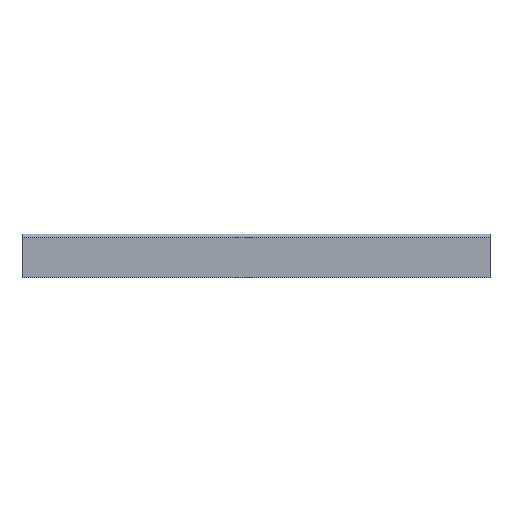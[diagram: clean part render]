
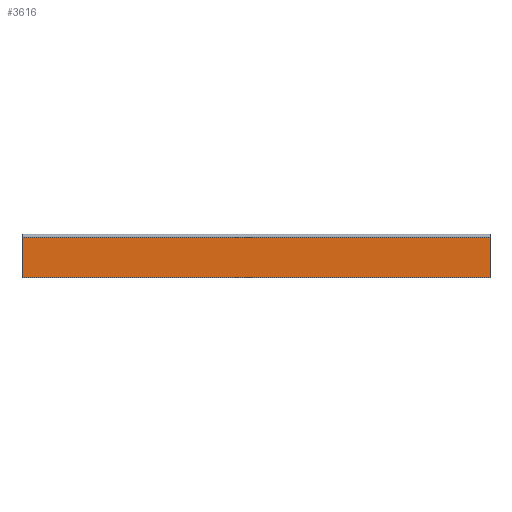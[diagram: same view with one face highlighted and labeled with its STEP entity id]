
A CAD part, left-side view. The second image highlights one B-rep face of the part: STEP entity #3616.
In plain terms, the highlighted planar face has unit normal (-1, 0, 0).
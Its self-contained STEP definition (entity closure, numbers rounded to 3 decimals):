
#32 = VERTEX_POINT ( 'NONE', #3790 ) ;
#33 = VERTEX_POINT ( 'NONE', #3791 ) ;
#590 = ORIENTED_EDGE ( 'NONE', *, *, #2183, .F. ) ;
#591 = ORIENTED_EDGE ( 'NONE', *, *, #3604, .F. ) ;
#592 = ORIENTED_EDGE ( 'NONE', *, *, #3223, .T. ) ;
#603 = ORIENTED_EDGE ( 'NONE', *, *, #3239, .F. ) ;
#674 = DIRECTION ( 'NONE',  ( 0., 0., 1. ) ) ;
#885 = CARTESIAN_POINT ( 'NONE',  ( -100., 0., 10. ) ) ;
#886 = DIRECTION ( 'NONE',  ( 0., 0., -1. ) ) ;
#1310 = CARTESIAN_POINT ( 'NONE',  ( -100., 429., 10. ) ) ;
#1318 = DIRECTION ( 'NONE',  ( 0., 0., 1. ) ) ;
#1342 = PLANE ( 'NONE',  #3540 ) ;
#1345 = CARTESIAN_POINT ( 'NONE',  ( -100., 454., 0. ) ) ;
#1351 = DIRECTION ( 'NONE',  ( -1., 0., 0. ) ) ;
#1515 = LINE ( 'NONE', #2420, #1517 ) ;
#1517 = VECTOR ( 'NONE', #4006, 1000. ) ;
#1534 = VECTOR ( 'NONE', #2222, 1000. ) ;
#1540 = LINE ( 'NONE', #2219, #1534 ) ;
#1700 = VECTOR ( 'NONE', #886, 1000. ) ;
#1701 = LINE ( 'NONE', #885, #1700 ) ;
#1880 = EDGE_LOOP ( 'NONE', ( #590, #603, #591, #592 ) ) ;
#2183 = EDGE_CURVE ( 'NONE', #3725, #3726, #1701, .T. ) ;
#2219 = CARTESIAN_POINT ( 'NONE',  ( -100., 454., 0. ) ) ;
#2222 = DIRECTION ( 'NONE',  ( 0., -1., 0. ) ) ;
#2297 = CARTESIAN_POINT ( 'NONE',  ( -100., 0., 37. ) ) ;
#2298 = CARTESIAN_POINT ( 'NONE',  ( -100., 0., 0. ) ) ;
#2420 = CARTESIAN_POINT ( 'NONE',  ( -100., 454., 37. ) ) ;
#2760 = FACE_OUTER_BOUND ( 'NONE', #1880, .T. ) ;
#2779 = VECTOR ( 'NONE', #1318, 1000. ) ;
#2782 = LINE ( 'NONE', #1310, #2779 ) ;
#3223 = EDGE_CURVE ( 'NONE', #32, #3726, #1540, .T. ) ;
#3239 = EDGE_CURVE ( 'NONE', #33, #3725, #1515, .T. ) ;
#3540 = AXIS2_PLACEMENT_3D ( 'NONE', #1345, #1351, #674 ) ;
#3604 = EDGE_CURVE ( 'NONE', #32, #33, #2782, .T. ) ;
#3616 = ADVANCED_FACE ( 'NONE', ( #2760 ), #1342, .T. ) ;
#3725 = VERTEX_POINT ( 'NONE', #2297 ) ;
#3726 = VERTEX_POINT ( 'NONE', #2298 ) ;
#3790 = CARTESIAN_POINT ( 'NONE',  ( -100., 429., 0. ) ) ;
#3791 = CARTESIAN_POINT ( 'NONE',  ( -100., 429., 37. ) ) ;
#4006 = DIRECTION ( 'NONE',  ( 0., -1., 0. ) ) ;
